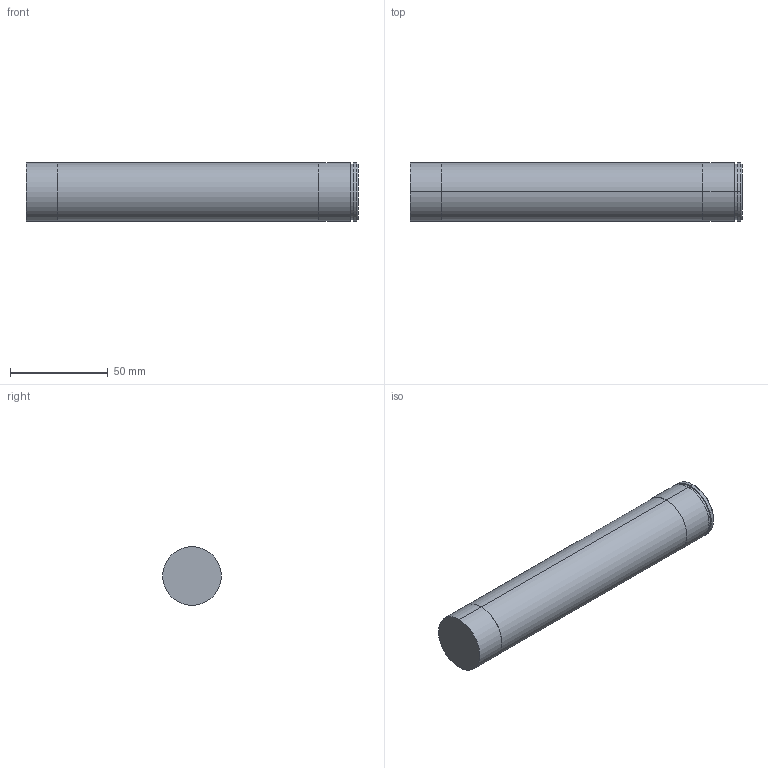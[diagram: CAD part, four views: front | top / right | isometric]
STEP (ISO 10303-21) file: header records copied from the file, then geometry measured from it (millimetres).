
FILE_DESCRIPTION (( 'STEP AP203' ), '1' );
FILE_NAME ('S7-30.STEP', '2002-08-16T10:51:41', ( '.' ), ( '.' ), 'SwSTEP 2.0', 'SolidWorks 2001340', '' );
FILE_SCHEMA (( 'CONFIG_CONTROL_DESIGN' ));
Length unit declared in the file: millimetre
Products named in the file (1): S7-30
Bounding box: 170 x 30 x 30 mm (x, y, z)
Volume: 118781.4 mm3; surface area: 17453 mm2
Topology: 1 solids, 1 shells, 18 faces, 34 edges, 22 vertices
Faces by surface type: cylinder 10, plane 6, cone 2
Entity records: 541 total; most frequent: DIRECTION 94, CARTESIAN_POINT 75, ORIENTED_EDGE 68, AXIS2_PLACEMENT_3D 41, EDGE_CURVE 34, VERTEX_POINT 22, EDGE_LOOP 22, CIRCLE 22
